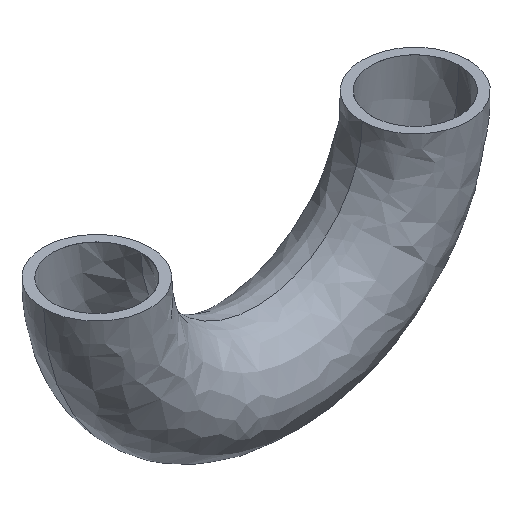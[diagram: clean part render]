
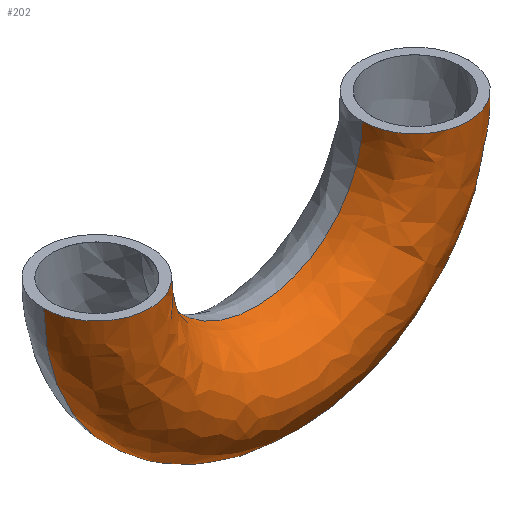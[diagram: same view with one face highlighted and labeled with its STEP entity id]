
A CAD part, isometric view. The second image highlights one B-rep face of the part: STEP entity #202.
In plain terms, the highlighted free-form (B-spline) face has degree [3, 3] with [4, 4] control points.
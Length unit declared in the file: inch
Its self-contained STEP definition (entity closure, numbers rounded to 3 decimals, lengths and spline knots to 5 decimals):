
#57 = CARTESIAN_POINT ( 'NONE',  ( 0.39514, -0.75, -2.99991 ) ) ;
#63 = DIRECTION ( 'NONE',  ( -1., 0., -0.007 ) ) ;
#67 = CARTESIAN_POINT ( 'NONE',  ( -2.60477, -0.75, -3.02005 ) ) ;
#76 = CARTESIAN_POINT ( 'NONE',  ( -2.62491, -0.75, -0.02014 ) ) ;
#195 = ORIENTED_EDGE ( 'NONE', *, *, #732, .F. ) ;
#202 = ADVANCED_FACE ( 'NONE', ( #1526 ), #2554, .T. ) ;
#223 = CIRCLE ( 'NONE', #1381, 1.49999 ) ;
#227 = VERTEX_POINT ( 'NONE', #1082 ) ;
#278 = ORIENTED_EDGE ( 'NONE', *, *, #1464, .T. ) ;
#322 = CARTESIAN_POINT ( 'NONE',  ( -0.375, -0.75, 0. ) ) ;
#331 = CARTESIAN_POINT ( 'NONE',  ( -0.35486, -0.75, -1.49991 ) ) ;
#341 = CARTESIAN_POINT ( 'NONE',  ( -1.85477, -0.75, -1.52005 ) ) ;
#438 = ORIENTED_EDGE ( 'NONE', *, *, #1920, .T. ) ;
#573 = CARTESIAN_POINT ( 'NONE',  ( -1.87491, -0.75, -0.02014 ) ) ;
#667 = DIRECTION ( 'NONE',  ( -1., 0., 0. ) ) ;
#678 = DIRECTION ( 'NONE',  ( 0., 0., -1. ) ) ;
#686 = CARTESIAN_POINT ( 'NONE',  ( -2.24991, 0., -0.02014 ) ) ;
#732 = EDGE_CURVE ( 'NONE', #1682, #2711, #2706, .T. ) ;
#834 = CARTESIAN_POINT ( 'NONE',  ( -1.87491, 0., -0.02014 ) ) ;
#843 = CARTESIAN_POINT ( 'NONE',  ( -1.85477, 0., -1.52005 ) ) ;
#859 = EDGE_CURVE ( 'NONE', #2711, #227, #1972, .T. ) ;
#907 = CARTESIAN_POINT ( 'NONE',  ( -2.62491, 0., -0.02014 ) ) ;
#942 = CARTESIAN_POINT ( 'NONE',  ( -1.87491, 0., -0.02014 ) ) ;
#1062 = DIRECTION ( 'NONE',  ( 1., 0., 0. ) ) ;
#1071 = DIRECTION ( 'NONE',  ( 0., 0., 1. ) ) ;
#1082 = CARTESIAN_POINT ( 'NONE',  ( 0.375, 0., 0. ) ) ;
#1083 = CARTESIAN_POINT ( 'NONE',  ( 0., 0., 0. ) ) ;
#1108 = DIRECTION ( 'NONE',  ( -1., 0., -0.013 ) ) ;
#1119 = DIRECTION ( 'NONE',  ( 0., -1., 0. ) ) ;
#1305 = CARTESIAN_POINT ( 'NONE',  ( -1.12495, 0., -0.01007 ) ) ;
#1339 = CARTESIAN_POINT ( 'NONE',  ( -0.35486, 0., -1.49991 ) ) ;
#1381 = AXIS2_PLACEMENT_3D ( 'NONE', #3040, #1573, #63 ) ;
#1464 = EDGE_CURVE ( 'NONE', #1682, #1485, #2549, .T. ) ;
#1485 = VERTEX_POINT ( 'NONE', #907 ) ;
#1486 = AXIS2_PLACEMENT_3D ( 'NONE', #686, #678, #667 ) ;
#1526 = FACE_OUTER_BOUND ( 'NONE', #2603, .T. ) ;
#1532 = ORIENTED_EDGE ( 'NONE', *, *, #859, .F. ) ;
#1573 = DIRECTION ( 'NONE',  ( 0., -1., 0. ) ) ;
#1682 = VERTEX_POINT ( 'NONE', #942 ) ;
#1847 = AXIS2_PLACEMENT_3D ( 'NONE', #1083, #1071, #1062 ) ;
#1920 = EDGE_CURVE ( 'NONE', #1485, #227, #223, .T. ) ;
#1972 = CIRCLE ( 'NONE', #1847, 0.375 ) ;
#2062 = AXIS2_PLACEMENT_3D ( 'NONE', #1305, #1119, #1108 ) ;
#2075 = CARTESIAN_POINT ( 'NONE',  ( -0.375, 0., 0. ) ) ;
#2549 = CIRCLE ( 'NONE', #1486, 0.375 ) ;
#2554 =( BOUNDED_SURFACE ( )  B_SPLINE_SURFACE ( 3, 3, ( 
 ( #834, #843, #1339, #2075 ),
 ( #573, #341, #331, #322 ),
 ( #76, #67, #57, #3140 ),
 ( #3123, #2933, #2680, #2898 ) ),
 .UNSPECIFIED., .F., .F., .T. ) 
 B_SPLINE_SURFACE_WITH_KNOTS ( ( 4, 4 ),
 ( 4, 4 ),
 ( 0., 1. ),
 ( 0., 1. ),
 .UNSPECIFIED. ) 
 GEOMETRIC_REPRESENTATION_ITEM ( )  RATIONAL_B_SPLINE_SURFACE ( (
 ( 1., 0.333, 0.333, 1.),
 ( 0.333, 0.111, 0.111, 0.333),
 ( 0.333, 0.111, 0.111, 0.333),
 ( 1., 0.333, 0.333, 1.) ) ) 
 REPRESENTATION_ITEM ( '' )  SURFACE ( )  );
#2603 = EDGE_LOOP ( 'NONE', ( #195, #278, #438, #1532 ) ) ;
#2604 = CARTESIAN_POINT ( 'NONE',  ( -0.375, 0., 0. ) ) ;
#2680 = CARTESIAN_POINT ( 'NONE',  ( 0.39514, 0., -2.99991 ) ) ;
#2706 = CIRCLE ( 'NONE', #2062, 0.75002 ) ;
#2711 = VERTEX_POINT ( 'NONE', #2604 ) ;
#2898 = CARTESIAN_POINT ( 'NONE',  ( 0.375, 0., 0. ) ) ;
#2933 = CARTESIAN_POINT ( 'NONE',  ( -2.60477, 0., -3.02005 ) ) ;
#3040 = CARTESIAN_POINT ( 'NONE',  ( -1.12495, 0., -0.01007 ) ) ;
#3123 = CARTESIAN_POINT ( 'NONE',  ( -2.62491, 0., -0.02014 ) ) ;
#3140 = CARTESIAN_POINT ( 'NONE',  ( 0.375, -0.75, 0. ) ) ;
